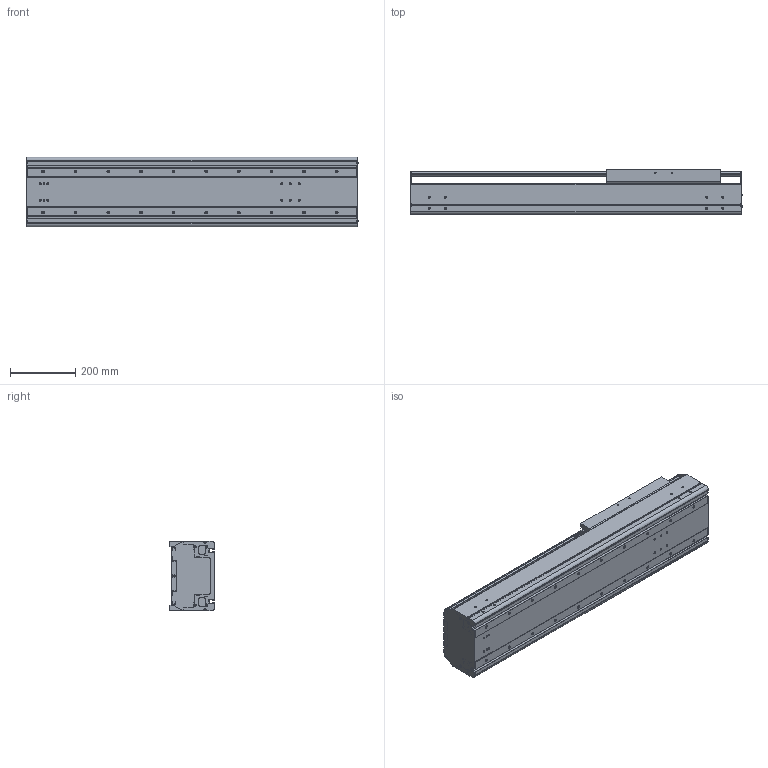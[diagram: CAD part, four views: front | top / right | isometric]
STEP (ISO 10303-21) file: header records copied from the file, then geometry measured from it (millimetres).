
FILE_DESCRIPTION((''),'2;1');
FILE_NAME('BE60G-ST-L_N-55_IGS_PRT','2017-06-18T',(' '),(''),'PRO/ENGINEER BY PARAMETRIC TECHNOLOGY CORPORATION, 2015030','PRO/ENGINEER BY PARAMETRIC TECHNOLOGY CORPORATION, 2015030','');
FILE_SCHEMA(('CONFIG_CONTROL_DESIGN'));
Length unit declared in the file: millimetre
Products named in the file (1): BE60G-ST-L_N-55_IGS_PRT
Bounding box: 1017.4 x 140 x 214 mm (x, y, z)
Volume: 8908154.6 mm3; surface area: 2316859.4 mm2
Topology: 2 solids, 124 shells, 1470 faces, 4068 edges, 2663 vertices
Faces by surface type: cylinder 728, plane 594, cone 100, sphere 24, torus 24
Entity records: 48497 total; most frequent: CARTESIAN_POINT 10557, DIRECTION 8056, ORIENTED_EDGE 7460, EDGE_CURVE 3970, AXIS2_PLACEMENT_3D 2987, VERTEX_POINT 2662, VECTOR 2082, LINE 2082
